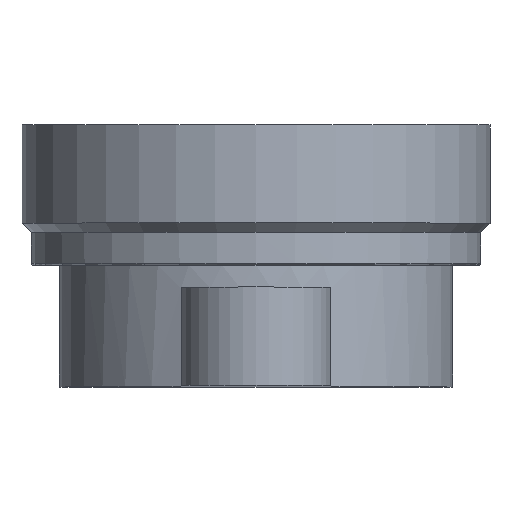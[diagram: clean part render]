
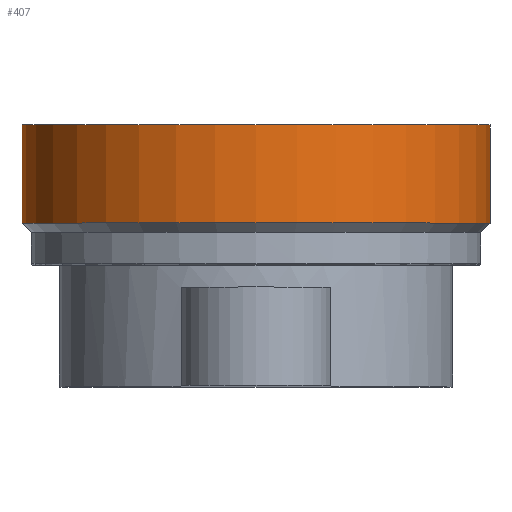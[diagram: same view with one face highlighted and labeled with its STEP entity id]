
A CAD part, top view. The second image highlights one B-rep face of the part: STEP entity #407.
In plain terms, the highlighted cylindrical face has radius 25 mm (diameter 50 mm), a partial arc.
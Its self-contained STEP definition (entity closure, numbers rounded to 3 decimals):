
#7=DIRECTION('',(0.,1.,0.));
#8=VECTOR('',#7,10.5);
#9=CARTESIAN_POINT('',(-25.,4.5,0.));
#10=LINE('',#9,#8);
#11=CARTESIAN_POINT('',(0.,15.,0.));
#12=DIRECTION('',(0.,-1.,0.));
#13=DIRECTION('',(1.,0.,0.));
#14=AXIS2_PLACEMENT_3D('',#11,#12,#13);
#16=DIRECTION('',(0.,1.,0.));
#17=VECTOR('',#16,10.5);
#18=CARTESIAN_POINT('',(25.,4.5,0.));
#19=LINE('',#18,#17);
#24=CARTESIAN_POINT('',(0.,4.5,0.));
#25=DIRECTION('',(0.,-1.,0.));
#26=DIRECTION('',(1.,0.,0.));
#27=AXIS2_PLACEMENT_3D('',#24,#25,#26);
#314=CARTESIAN_POINT('',(-25.,4.5,0.));
#315=CARTESIAN_POINT('',(-25.,15.,0.));
#316=VERTEX_POINT('',#314);
#317=VERTEX_POINT('',#315);
#324=CARTESIAN_POINT('',(25.,4.5,0.));
#325=CARTESIAN_POINT('',(25.,15.,0.));
#326=VERTEX_POINT('',#324);
#327=VERTEX_POINT('',#325);
#394=CARTESIAN_POINT('',(0.,16.4,0.));
#395=DIRECTION('',(0.,-1.,0.));
#396=DIRECTION('',(-1.,0.,0.));
#397=AXIS2_PLACEMENT_3D('',#394,#395,#396);
#398=CYLINDRICAL_SURFACE('',#397,25.);
#399=ORIENTED_EDGE('',*,*,#383,.T.);
#401=ORIENTED_EDGE('',*,*,#400,.F.);
#402=ORIENTED_EDGE('',*,*,#387,.F.);
#404=ORIENTED_EDGE('',*,*,#403,.T.);
#405=EDGE_LOOP('',(#399,#401,#402,#404));
#406=FACE_OUTER_BOUND('',#405,.F.);
#407=ADVANCED_FACE('',(#406),#398,.T.);
#15=CIRCLE('',#14,25.);
#28=CIRCLE('',#27,25.);
#383=EDGE_CURVE('',#316,#317,#10,.T.);
#387=EDGE_CURVE('',#326,#327,#19,.T.);
#400=EDGE_CURVE('',#327,#317,#15,.T.);
#403=EDGE_CURVE('',#326,#316,#28,.T.);
